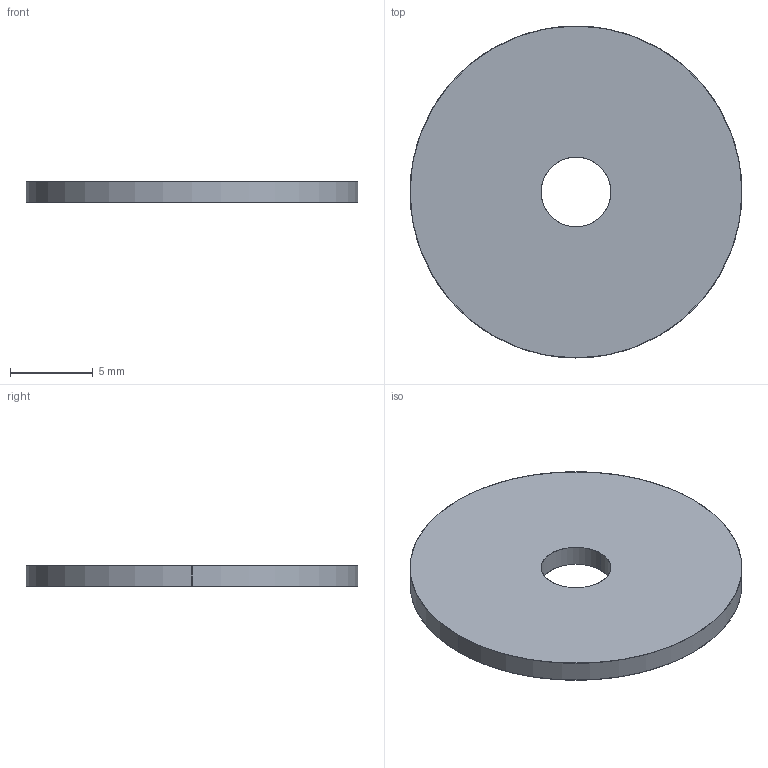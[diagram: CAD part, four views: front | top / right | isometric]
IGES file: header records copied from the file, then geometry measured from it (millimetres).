
Start section: SolidWorks IGES file using analytic representation for surfaces
Global section: file name: C:\Users\liam_\OneDrive\Desktop\Work\Mat Davis Pending 20181125\automotion\P SERIES\P0333.A4_v2\P0333.A4_v2_20181217_IGES\P0333.040-020-A4.igs; native system: SolidWorks 2017; preprocessor: SolidWorks 2017; author: liam_; date: 181217.190745; units: millimetre
Bounding box: 20 x 20 x 1.25 mm (x, y, z)
Surface area: 695.7 mm2 (no closed solid volume)
Topology: 0 solids, 0 shells, 6 faces, 144 edges, 144 vertices
Faces by surface type: revolution 4, bspline 2
